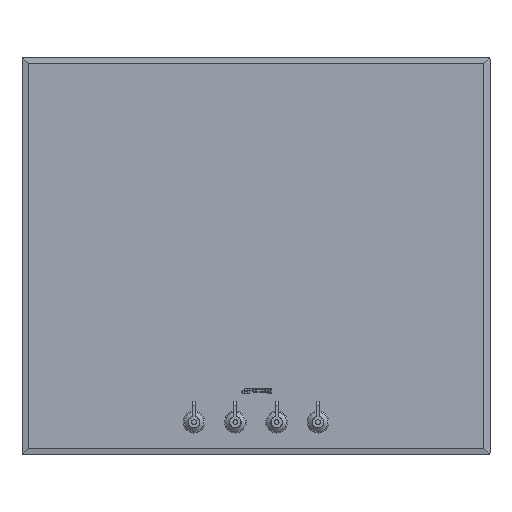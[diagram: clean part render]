
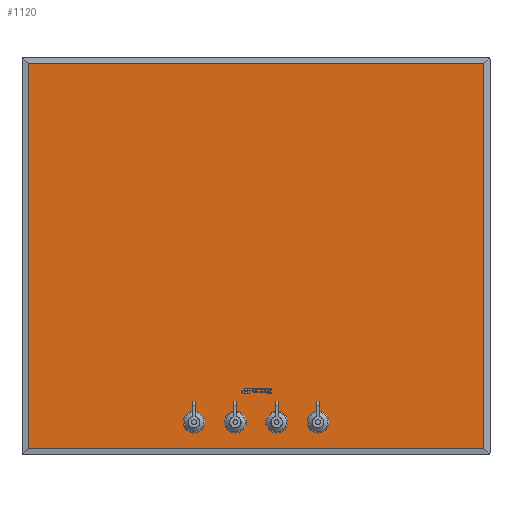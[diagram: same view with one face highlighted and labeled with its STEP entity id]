
A CAD part, top view. The second image highlights one B-rep face of the part: STEP entity #1120.
In plain terms, the highlighted planar face has unit normal (0, 0, 1).
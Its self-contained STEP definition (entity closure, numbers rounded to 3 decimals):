
#289=LINE('',#5244,#497);
#290=LINE('',#5247,#498);
#291=LINE('',#5249,#499);
#292=LINE('',#5251,#500);
#497=VECTOR('',#4004,1.);
#498=VECTOR('',#4005,1.);
#499=VECTOR('',#4006,1.);
#500=VECTOR('',#4007,1.);
#938=PLANE('',#3234);
#1120=ADVANCED_FACE('',(#1287,#1288,#1289,#1290,#1291),#938,.T.);
#1287=FACE_BOUND('',#1522,.T.);
#1288=FACE_BOUND('',#1523,.T.);
#1289=FACE_BOUND('',#1524,.T.);
#1290=FACE_BOUND('',#1525,.T.);
#1291=FACE_BOUND('',#1526,.T.);
#1522=EDGE_LOOP('',(#2176));
#1523=EDGE_LOOP('',(#2177));
#1524=EDGE_LOOP('',(#2178));
#1525=EDGE_LOOP('',(#2179));
#1526=EDGE_LOOP('',(#2180,#2181,#2182,#2183));
#2176=ORIENTED_EDGE('',*,*,#2824,.F.);
#2177=ORIENTED_EDGE('',*,*,#2825,.F.);
#2178=ORIENTED_EDGE('',*,*,#2826,.F.);
#2179=ORIENTED_EDGE('',*,*,#2827,.F.);
#2180=ORIENTED_EDGE('',*,*,#2828,.T.);
#2181=ORIENTED_EDGE('',*,*,#2829,.T.);
#2182=ORIENTED_EDGE('',*,*,#2830,.T.);
#2183=ORIENTED_EDGE('',*,*,#2831,.T.);
#2486=VERTEX_POINT('',#5237);
#2487=VERTEX_POINT('',#5239);
#2488=VERTEX_POINT('',#5241);
#2489=VERTEX_POINT('',#5243);
#2490=VERTEX_POINT('',#5245);
#2491=VERTEX_POINT('',#5246);
#2492=VERTEX_POINT('',#5248);
#2493=VERTEX_POINT('',#5250);
#2824=EDGE_CURVE('',#2486,#2486,#2954,.T.);
#2825=EDGE_CURVE('',#2487,#2487,#2955,.T.);
#2826=EDGE_CURVE('',#2488,#2488,#2956,.T.);
#2827=EDGE_CURVE('',#2489,#2489,#2957,.T.);
#2828=EDGE_CURVE('',#2490,#2491,#289,.T.);
#2829=EDGE_CURVE('',#2491,#2492,#290,.T.);
#2830=EDGE_CURVE('',#2492,#2493,#291,.T.);
#2831=EDGE_CURVE('',#2493,#2490,#292,.T.);
#2954=CIRCLE('',#3230,11.);
#2955=CIRCLE('',#3231,11.);
#2956=CIRCLE('',#3232,11.);
#2957=CIRCLE('',#3233,11.);
#3230=AXIS2_PLACEMENT_3D('',#5236,#3996,#3997);
#3231=AXIS2_PLACEMENT_3D('',#5238,#3998,#3999);
#3232=AXIS2_PLACEMENT_3D('',#5240,#4000,#4001);
#3233=AXIS2_PLACEMENT_3D('',#5242,#4002,#4003);
#3234=AXIS2_PLACEMENT_3D('',#5252,#4008,#4009);
#3996=DIRECTION('',(0.,0.,1.));
#3997=DIRECTION('',(1.,0.,0.));
#3998=DIRECTION('',(0.,0.,1.));
#3999=DIRECTION('',(1.,0.,0.));
#4000=DIRECTION('',(0.,0.,1.));
#4001=DIRECTION('',(1.,0.,0.));
#4002=DIRECTION('',(0.,0.,1.));
#4003=DIRECTION('',(1.,0.,0.));
#4004=DIRECTION('',(0.,1.,0.));
#4005=DIRECTION('',(-1.,0.,0.));
#4006=DIRECTION('',(0.,-1.,0.));
#4007=DIRECTION('',(1.,0.,0.));
#4008=DIRECTION('',(0.,0.,1.));
#4009=DIRECTION('',(1.,0.,0.));
#5236=CARTESIAN_POINT('',(79.5,44.5,44.));
#5237=CARTESIAN_POINT('',(90.5,44.5,44.));
#5238=CARTESIAN_POINT('',(26.5,44.5,44.));
#5239=CARTESIAN_POINT('',(37.5,44.5,44.));
#5240=CARTESIAN_POINT('',(-26.5,44.5,44.));
#5241=CARTESIAN_POINT('',(-15.5,44.5,44.));
#5242=CARTESIAN_POINT('',(-79.5,44.5,44.));
#5243=CARTESIAN_POINT('',(-68.5,44.5,44.));
#5244=CARTESIAN_POINT('',(292.,512.5,44.));
#5245=CARTESIAN_POINT('',(292.,10.5,44.));
#5246=CARTESIAN_POINT('',(292.,504.5,44.));
#5247=CARTESIAN_POINT('',(-300.,504.5,44.));
#5248=CARTESIAN_POINT('',(-292.,504.5,44.));
#5249=CARTESIAN_POINT('',(-292.,2.5,44.));
#5250=CARTESIAN_POINT('',(-292.,10.5,44.));
#5251=CARTESIAN_POINT('',(300.,10.5,44.));
#5252=CARTESIAN_POINT('',(0.,2.5,44.));
